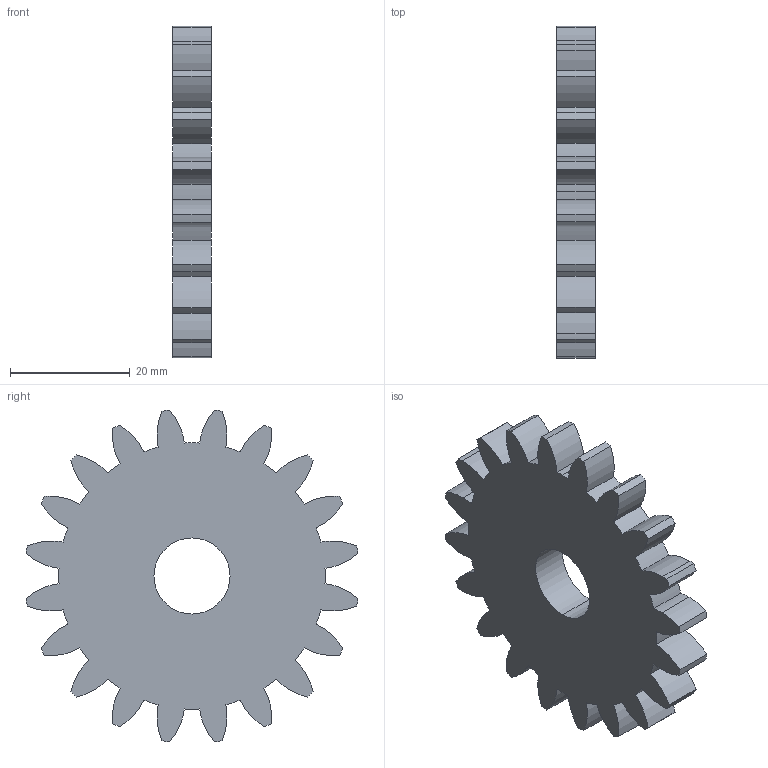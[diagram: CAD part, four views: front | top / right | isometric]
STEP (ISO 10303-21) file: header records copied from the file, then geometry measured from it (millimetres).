
FILE_DESCRIPTION (( 'STEP AP214' ), '1' );
FILE_NAME ('9 - Driven Gear 20T.STEP', '2022-11-25T05:46:14', ( '' ), ( '' ), 'SwSTEP 2.0', 'SolidWorks 2021', '' );
FILE_SCHEMA (( 'AUTOMOTIVE_DESIGN' ));
Length unit declared in the file: inch
Products named in the file (1): 9 - Driven Gear 20T
Bounding box: 6.35 x 55.38 x 55.38 mm (x, y, z)
Volume: 11586.5 mm3; surface area: 5945.4 mm2
Topology: 1 solids, 1 shells, 89 faces, 261 edges, 174 vertices
Faces by surface type: cylinder 87, plane 2
Entity records: 3113 total; most frequent: DIRECTION 615, CARTESIAN_POINT 525, ORIENTED_EDGE 522, AXIS2_PLACEMENT_3D 264, EDGE_CURVE 261, VERTEX_POINT 174, CIRCLE 174, EDGE_LOOP 91
